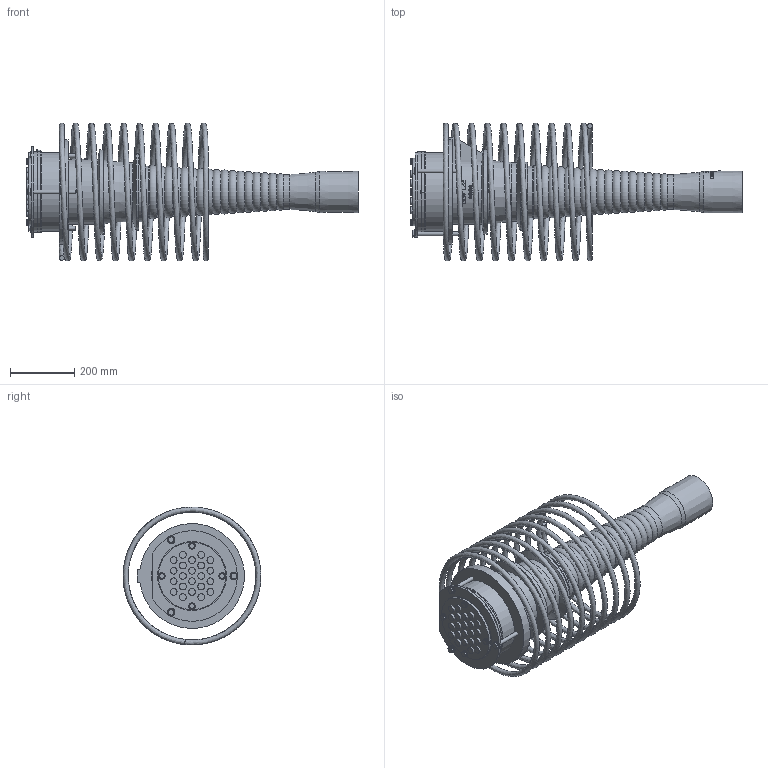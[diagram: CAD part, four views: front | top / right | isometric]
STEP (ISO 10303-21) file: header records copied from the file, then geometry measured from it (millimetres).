
FILE_DESCRIPTION(/* description */ (''),/* implementation_level */ '2;1');
FILE_NAME(/* name */ 'C:\Users\klukas\VAULT\CAD-Daten\Konstruktion\02a. Zusammenbau\Z-13.1-114 Typ i-Litzenspannverf. m. Verbund\Fe - L22 flex.AK\Z-13.1-114.Fe.022.20 (Fe) L22i flex.Abdeckkappe.stp',/* time_stamp */ '2023-08-22T10:32:58+02:00',/* author */ ('klukas'),/* organization */ (''),/* preprocessor_version */ 'ST-DEVELOPER v18.1',/* originating_system */ 'Autodesk Inventor 2021',/* authorisation */ '');
FILE_SCHEMA (('AUTOMOTIVE_DESIGN { 1 0 10303 214 3 1 1 }'));
Products named in the file (1): Z-13.1-114.Fe.022.20 (Fe) L22i flex.Abdeckkappe_Shrinkwrap_1
Bounding box: 1035.9 x 429.97 x 429.99 mm (x, y, z)
Volume: 11655894 mm3; surface area: 2362727.7 mm2
Topology: 39 solids, 39 shells, 737 faces, 1788 edges, 1169 vertices
Faces by surface type: plane 320, bspline 179, cone 116, cylinder 87, torus 35
Full cylindrical faces by diameter (mm): 5 x1, 10 x4, 12 x3, 14.63 x4, 16.63 x3, 20 x4, 21 x22, 24 x3, 102 x1, 109 x1, 155 x2, 162 x1, 163 x3, 165 x3, 178.128 x1, 183 x1, 184.177 x1, 185.128 x1, 210 x1, 215 x1, 238 x1, 244 x1, 245 x1, 250 x2, 263 x1
Entity records: 48036 total; most frequent: CARTESIAN_POINT 30885, ORIENTED_EDGE 3576, DIRECTION 2998, EDGE_CURVE 1788, VERTEX_POINT 1169, AXIS2_PLACEMENT_3D 1158, EDGE_LOOP 817, STYLED_ITEM 766
